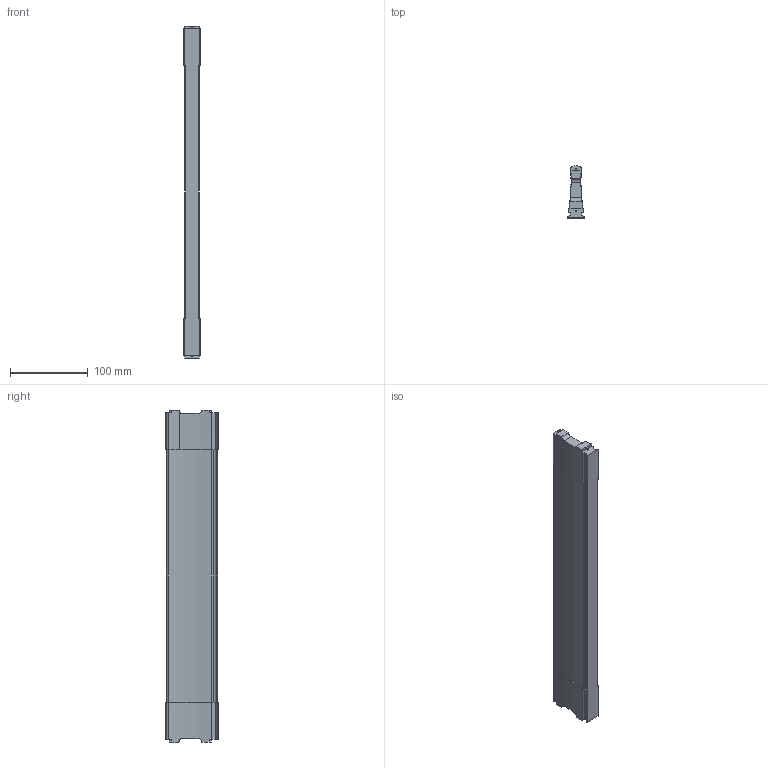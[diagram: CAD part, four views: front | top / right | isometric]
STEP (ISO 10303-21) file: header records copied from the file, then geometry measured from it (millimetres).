
FILE_DESCRIPTION (( 'STEP AP214' ), '1' );
FILE_NAME ('Traverse DWD XP NL450 Mass X418,4.step', '2010-09-21T13:16:39', ( 'grass' ), ( '' ), 'SwSTEP 2.0', 'SolidWorks 2010', '' );
FILE_SCHEMA (( 'AUTOMOTIVE_DESIGN' ));
Length unit declared in the file: millimetre
Products named in the file (1): Traverse DWD XP NL450 Mass X418,4
Bounding box: 21.4 x 67.5 x 427.4 mm (x, y, z)
Volume: 358203.3 mm3; surface area: 74795.3 mm2
Topology: 1 solids, 1 shells, 125 faces, 369 edges, 246 vertices
Faces by surface type: cylinder 68, plane 57
Entity records: 4377 total; most frequent: CARTESIAN_POINT 879, DIRECTION 753, ORIENTED_EDGE 738, EDGE_CURVE 369, AXIS2_PLACEMENT_3D 268, VERTEX_POINT 246, VECTOR 217, LINE 217
